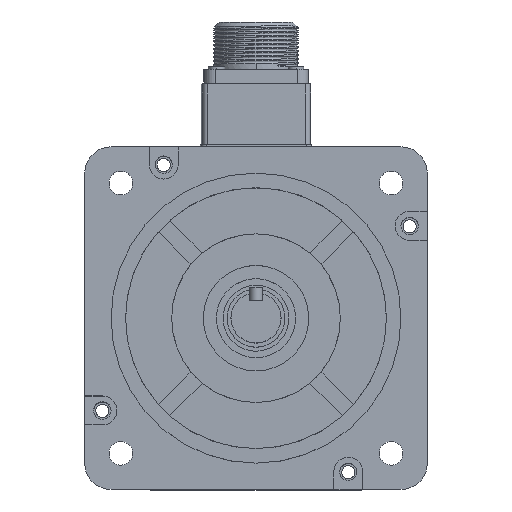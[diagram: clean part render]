
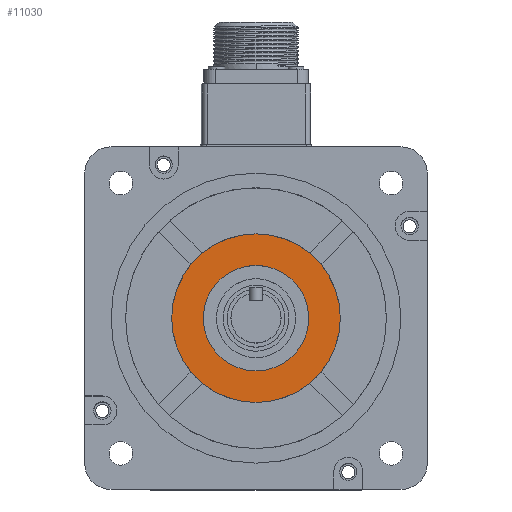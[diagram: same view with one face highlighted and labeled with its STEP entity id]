
A CAD part, top view. The second image highlights one B-rep face of the part: STEP entity #11030.
In plain terms, the highlighted planar face has unit normal (0, 0, -1).
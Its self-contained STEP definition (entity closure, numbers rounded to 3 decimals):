
#176 = VERTEX_POINT ( 'NONE', #1590 ) ;
#557 = VERTEX_POINT ( 'NONE', #1971 ) ;
#766 = VERTEX_POINT ( 'NONE', #2180 ) ;
#1408 = EDGE_LOOP ( 'NONE', ( #13996, #14388 ) ) ;
#1414 = EDGE_LOOP ( 'NONE', ( #14847, #14050 ) ) ;
#1590 = CARTESIAN_POINT ( 'NONE',  ( -25.047, -27.929, 86.611 ) ) ;
#1971 = CARTESIAN_POINT ( 'NONE',  ( -65.047, -27.929, 86.611 ) ) ;
#2180 = CARTESIAN_POINT ( 'NONE',  ( -77.047, -27.929, 86.611 ) ) ;
#4085 = CARTESIAN_POINT ( 'NONE',  ( -45.047, -7.929, 86.611 ) ) ;
#4093 = FACE_BOUND ( 'NONE', #1408, .T. ) ;
#4094 = FACE_OUTER_BOUND ( 'NONE', #1414, .T. ) ;
#4095 = PLANE ( 'NONE',  #32744 ) ;
#4097 = DIRECTION ( 'NONE',  ( 0., 0., -1. ) ) ;
#4098 = DIRECTION ( 'NONE',  ( -1., 0., 0. ) ) ;
#4695 = EDGE_CURVE ( 'NONE', #766, #24782, #29657, .T. ) ;
#4697 = EDGE_CURVE ( 'NONE', #557, #176, #29820, .T. ) ;
#7942 = CARTESIAN_POINT ( 'NONE',  ( -13.047, -27.929, 86.611 ) ) ;
#11030 = ADVANCED_FACE ( 'NONE', ( #4093, #4094 ), #4095, .T. ) ;
#12568 = CARTESIAN_POINT ( 'NONE',  ( -45.047, -27.929, 86.611 ) ) ;
#12569 = DIRECTION ( 'NONE',  ( 0., 0., -1. ) ) ;
#12570 = DIRECTION ( 'NONE',  ( -1., 0., 0. ) ) ;
#12574 = CARTESIAN_POINT ( 'NONE',  ( -45.047, -27.929, 86.611 ) ) ;
#12575 = DIRECTION ( 'NONE',  ( 0., 0., 1. ) ) ;
#12576 = DIRECTION ( 'NONE',  ( -1., 0., 0. ) ) ;
#13996 = ORIENTED_EDGE ( 'NONE', *, *, #4697, .T. ) ;
#14050 = ORIENTED_EDGE ( 'NONE', *, *, #32201, .T. ) ;
#14388 = ORIENTED_EDGE ( 'NONE', *, *, #32260, .T. ) ;
#14847 = ORIENTED_EDGE ( 'NONE', *, *, #4695, .T. ) ;
#17442 = CARTESIAN_POINT ( 'NONE',  ( -45.047, -27.929, 86.611 ) ) ;
#17443 = DIRECTION ( 'NONE',  ( 0., 0., -1. ) ) ;
#17444 = DIRECTION ( 'NONE',  ( -1., 0., 0. ) ) ;
#21674 = CARTESIAN_POINT ( 'NONE',  ( -45.047, -27.929, 86.611 ) ) ;
#21675 = DIRECTION ( 'NONE',  ( 0., 0., 1. ) ) ;
#21676 = DIRECTION ( 'NONE',  ( -1., 0., 0. ) ) ;
#24782 = VERTEX_POINT ( 'NONE', #7942 ) ;
#29657 = CIRCLE ( 'NONE', #29797, 32. ) ;
#29713 = AXIS2_PLACEMENT_3D ( 'NONE', #12574, #12575, #12576 ) ;
#29797 = AXIS2_PLACEMENT_3D ( 'NONE', #12568, #12569, #12570 ) ;
#29820 = CIRCLE ( 'NONE', #29713, 20. ) ;
#32201 = EDGE_CURVE ( 'NONE', #24782, #766, #32728, .T. ) ;
#32260 = EDGE_CURVE ( 'NONE', #176, #557, #32828, .T. ) ;
#32728 = CIRCLE ( 'NONE', #32732, 32. ) ;
#32732 = AXIS2_PLACEMENT_3D ( 'NONE', #17442, #17443, #17444 ) ;
#32744 = AXIS2_PLACEMENT_3D ( 'NONE', #4085, #4097, #4098 ) ;
#32828 = CIRCLE ( 'NONE', #32832, 20. ) ;
#32832 = AXIS2_PLACEMENT_3D ( 'NONE', #21674, #21675, #21676 ) ;
